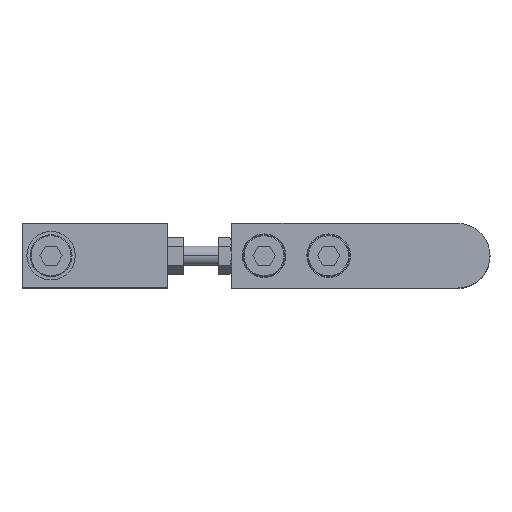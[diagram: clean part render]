
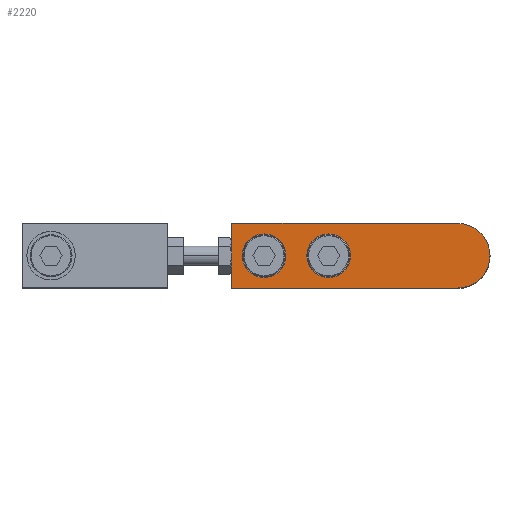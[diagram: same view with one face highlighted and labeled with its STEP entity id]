
A CAD part, top view. The second image highlights one B-rep face of the part: STEP entity #2220.
In plain terms, the highlighted planar face has unit normal (0, 0, 1) as drawn and (0, 0, -1) by its records, which use the part's own axes.
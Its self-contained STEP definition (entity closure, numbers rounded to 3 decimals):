
#105 = AXIS2_PLACEMENT_3D ( 'NONE', #2812, #5418, #237 ) ;
#109 = FACE_BOUND ( 'NONE', #172, .T. ) ;
#172 = EDGE_LOOP ( 'NONE', ( #6970, #3220 ) ) ;
#237 = DIRECTION ( 'NONE',  ( -1., 0., 0. ) ) ;
#283 = VERTEX_POINT ( 'NONE', #3180 ) ;
#349 = PLANE ( 'NONE',  #4923 ) ;
#416 = CARTESIAN_POINT ( 'NONE',  ( 0., 0., -5. ) ) ;
#819 = DIRECTION ( 'NONE',  ( 0., 0., -1. ) ) ;
#850 = DIRECTION ( 'NONE',  ( -1., 0., 0. ) ) ;
#890 = EDGE_CURVE ( 'NONE', #1670, #6762, #5233, .T. ) ;
#926 = EDGE_LOOP ( 'NONE', ( #4625, #5961, #1930, #4304, #1517 ) ) ;
#1356 = EDGE_CURVE ( 'NONE', #4289, #6673, #7078, .T. ) ;
#1498 = DIRECTION ( 'NONE',  ( -1., 0., 0. ) ) ;
#1517 = ORIENTED_EDGE ( 'NONE', *, *, #4757, .F. ) ;
#1534 = ORIENTED_EDGE ( 'NONE', *, *, #890, .F. ) ;
#1553 = VERTEX_POINT ( 'NONE', #6413 ) ;
#1571 = VERTEX_POINT ( 'NONE', #6559 ) ;
#1602 = VECTOR ( 'NONE', #1498, 1000. ) ;
#1670 = VERTEX_POINT ( 'NONE', #6627 ) ;
#1902 = CARTESIAN_POINT ( 'NONE',  ( 0., -10., -5. ) ) ;
#1930 = ORIENTED_EDGE ( 'NONE', *, *, #8051, .F. ) ;
#2107 = EDGE_CURVE ( 'NONE', #3263, #7637, #2769, .T. ) ;
#2176 = AXIS2_PLACEMENT_3D ( 'NONE', #3580, #7419, #5469 ) ;
#2220 = ADVANCED_FACE ( 'NONE', ( #109, #2979, #5749 ), #349, .F. ) ;
#2339 = ORIENTED_EDGE ( 'NONE', *, *, #2395, .F. ) ;
#2395 = EDGE_CURVE ( 'NONE', #6762, #1670, #6727, .T. ) ;
#2453 = CARTESIAN_POINT ( 'NONE',  ( 70., -10., -5. ) ) ;
#2606 = CARTESIAN_POINT ( 'NONE',  ( 70., 10., -5. ) ) ;
#2679 = AXIS2_PLACEMENT_3D ( 'NONE', #2984, #5079, #4225 ) ;
#2769 = CIRCLE ( 'NONE', #5764, 6.75 ) ;
#2778 = CARTESIAN_POINT ( 'NONE',  ( 33.25, 0., -5. ) ) ;
#2812 = CARTESIAN_POINT ( 'NONE',  ( 40., 0., -5. ) ) ;
#2840 = CIRCLE ( 'NONE', #6448, 10. ) ;
#2904 = EDGE_CURVE ( 'NONE', #283, #1571, #4781, .T. ) ;
#2941 = DIRECTION ( 'NONE',  ( 1., 0., 0. ) ) ;
#2979 = FACE_BOUND ( 'NONE', #5721, .T. ) ;
#2984 = CARTESIAN_POINT ( 'NONE',  ( 0., 0., -5. ) ) ;
#3115 = LINE ( 'NONE', #2606, #8002 ) ;
#3135 = CARTESIAN_POINT ( 'NONE',  ( 0., -10., -5. ) ) ;
#3180 = CARTESIAN_POINT ( 'NONE',  ( 70., 10., -5. ) ) ;
#3218 = EDGE_CURVE ( 'NONE', #7637, #3263, #6870, .T. ) ;
#3220 = ORIENTED_EDGE ( 'NONE', *, *, #2107, .F. ) ;
#3263 = VERTEX_POINT ( 'NONE', #5555 ) ;
#3366 = CIRCLE ( 'NONE', #2679, 10. ) ;
#3533 = CARTESIAN_POINT ( 'NONE',  ( 0., 10., -5. ) ) ;
#3580 = CARTESIAN_POINT ( 'NONE',  ( 40., 0., -5. ) ) ;
#3675 = DIRECTION ( 'NONE',  ( 0., 0., -1. ) ) ;
#3718 = EDGE_CURVE ( 'NONE', #1571, #1553, #3366, .T. ) ;
#4021 = VECTOR ( 'NONE', #5069, 1000. ) ;
#4176 = DIRECTION ( 'NONE',  ( 0., 0., 1. ) ) ;
#4225 = DIRECTION ( 'NONE',  ( 1., 0., 0. ) ) ;
#4289 = VERTEX_POINT ( 'NONE', #1902 ) ;
#4304 = ORIENTED_EDGE ( 'NONE', *, *, #1356, .F. ) ;
#4625 = ORIENTED_EDGE ( 'NONE', *, *, #3718, .F. ) ;
#4757 = EDGE_CURVE ( 'NONE', #1553, #4289, #2840, .T. ) ;
#4781 = LINE ( 'NONE', #3533, #1602 ) ;
#4923 = AXIS2_PLACEMENT_3D ( 'NONE', #6706, #6133, #7321 ) ;
#5069 = DIRECTION ( 'NONE',  ( 1., 0., 0. ) ) ;
#5079 = DIRECTION ( 'NONE',  ( 0., 0., 1. ) ) ;
#5233 = CIRCLE ( 'NONE', #2176, 6.75 ) ;
#5354 = CARTESIAN_POINT ( 'NONE',  ( 53.25, 0., -5. ) ) ;
#5418 = DIRECTION ( 'NONE',  ( 0., 0., -1. ) ) ;
#5469 = DIRECTION ( 'NONE',  ( -1., 0., 0. ) ) ;
#5555 = CARTESIAN_POINT ( 'NONE',  ( 66.75, 0., -5. ) ) ;
#5721 = EDGE_LOOP ( 'NONE', ( #2339, #1534 ) ) ;
#5749 = FACE_OUTER_BOUND ( 'NONE', #926, .T. ) ;
#5764 = AXIS2_PLACEMENT_3D ( 'NONE', #7184, #819, #850 ) ;
#5961 = ORIENTED_EDGE ( 'NONE', *, *, #2904, .F. ) ;
#6133 = DIRECTION ( 'NONE',  ( 0., 0., 1. ) ) ;
#6167 = CARTESIAN_POINT ( 'NONE',  ( 60., 0., -5. ) ) ;
#6413 = CARTESIAN_POINT ( 'NONE',  ( -10., 0., -5. ) ) ;
#6448 = AXIS2_PLACEMENT_3D ( 'NONE', #416, #4176, #2941 ) ;
#6559 = CARTESIAN_POINT ( 'NONE',  ( 0., 10., -5. ) ) ;
#6627 = CARTESIAN_POINT ( 'NONE',  ( 46.75, 0., -5. ) ) ;
#6673 = VERTEX_POINT ( 'NONE', #2453 ) ;
#6706 = CARTESIAN_POINT ( 'NONE',  ( 0., 0., -5. ) ) ;
#6727 = CIRCLE ( 'NONE', #105, 6.75 ) ;
#6762 = VERTEX_POINT ( 'NONE', #2778 ) ;
#6820 = AXIS2_PLACEMENT_3D ( 'NONE', #6167, #3675, #8000 ) ;
#6870 = CIRCLE ( 'NONE', #6820, 6.75 ) ;
#6970 = ORIENTED_EDGE ( 'NONE', *, *, #3218, .F. ) ;
#7019 = DIRECTION ( 'NONE',  ( 0., 1., 0. ) ) ;
#7078 = LINE ( 'NONE', #3135, #4021 ) ;
#7184 = CARTESIAN_POINT ( 'NONE',  ( 60., 0., -5. ) ) ;
#7321 = DIRECTION ( 'NONE',  ( 1., 0., 0. ) ) ;
#7419 = DIRECTION ( 'NONE',  ( 0., 0., -1. ) ) ;
#7637 = VERTEX_POINT ( 'NONE', #5354 ) ;
#8000 = DIRECTION ( 'NONE',  ( -1., 0., 0. ) ) ;
#8002 = VECTOR ( 'NONE', #7019, 1000. ) ;
#8051 = EDGE_CURVE ( 'NONE', #6673, #283, #3115, .T. ) ;
